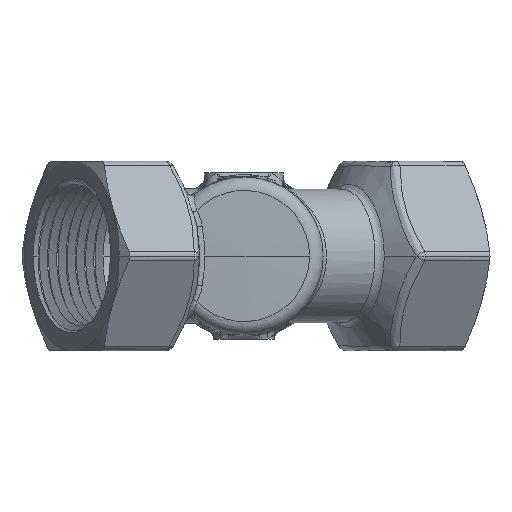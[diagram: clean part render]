
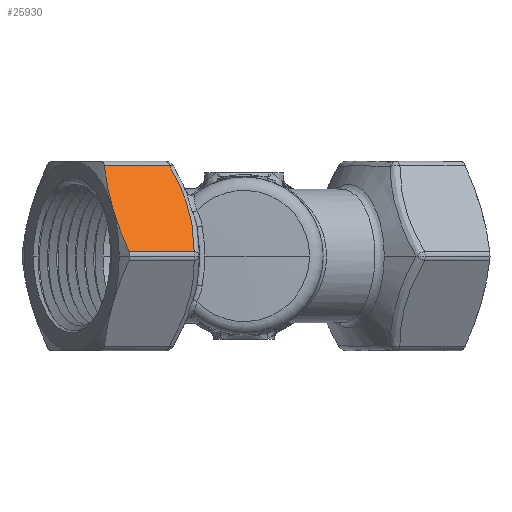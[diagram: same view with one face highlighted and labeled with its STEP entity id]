
A CAD part, front view. The second image highlights one B-rep face of the part: STEP entity #25930.
In plain terms, the highlighted planar face has unit normal (0.433, -0.75, 0.5).
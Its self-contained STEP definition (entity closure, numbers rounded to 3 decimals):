
#343 = CARTESIAN_POINT ( 'NONE',  ( -14.087, -59.12, 8.661 ) ) ;
#488 = CARTESIAN_POINT ( 'NONE',  ( -14.991, -57.549, 11.801 ) ) ;
#635 = CARTESIAN_POINT ( 'NONE',  ( -15.896, -56.507, 14.147 ) ) ;
#659 = CARTESIAN_POINT ( 'NONE',  ( -28.072, -71.274, 2.542 ) ) ;
#2552 = CARTESIAN_POINT ( 'NONE',  ( -13.351, -61.786, 4.025 ) ) ;
#2554 = CARTESIAN_POINT ( 'NONE',  ( -10.006, -61.871, 1. ) ) ;
#2876 = VERTEX_POINT ( 'NONE', #26787 ) ;
#4904 = CARTESIAN_POINT ( 'NONE',  ( -13.271, -63.757, 1. ) ) ;
#5838 = EDGE_LOOP ( 'NONE', ( #10290, #16008, #13945, #20140, #27453 ) ) ;
#6107 = CARTESIAN_POINT ( 'NONE',  ( -30.862, -67.746, 10.25 ) ) ;
#6448 = EDGE_CURVE ( 'NONE', #2876, #7851, #15780, .T. ) ;
#7836 = CARTESIAN_POINT ( 'NONE',  ( -31.678, -66.162, 13.333 ) ) ;
#7851 = VERTEX_POINT ( 'NONE', #13734 ) ;
#8082 = FACE_OUTER_BOUND ( 'NONE', #5838, .T. ) ;
#9302 = CARTESIAN_POINT ( 'NONE',  ( -30.417, -68.517, 8.708 ) ) ;
#9331 = B_SPLINE_CURVE_WITH_KNOTS ( 'NONE', 3,
 ( #4904, #14130, #2552, #22668, #23098, #343, #11489, #13837, #488, #20451, #635, #9428, #13982, #20745 ),
 .UNSPECIFIED., .F., .F.,
 ( 4, 2, 2, 2, 2, 2, 4 ),
 ( 0., 0.005, 0.008, 0.011, 0.013, 0.016, 0.022 ),
 .UNSPECIFIED. ) ;
#9428 = CARTESIAN_POINT ( 'NONE',  ( -16.94, -55.564, 16.467 ) ) ;
#10038 = CARTESIAN_POINT ( 'NONE',  ( -31.307, -66.975, 11.792 ) ) ;
#10290 = ORIENTED_EDGE ( 'NONE', *, *, #14646, .F. ) ;
#10417 = CARTESIAN_POINT ( 'NONE',  ( -13.271, -63.757, 1. ) ) ;
#11489 = CARTESIAN_POINT ( 'NONE',  ( -14.279, -58.707, 9.447 ) ) ;
#12090 = CARTESIAN_POINT ( 'NONE',  ( -30.862, -67.746, 10.25 ) ) ;
#12347 = CARTESIAN_POINT ( 'NONE',  ( -16.253, -51.05, 22.642 ) ) ;
#13734 = CARTESIAN_POINT ( 'NONE',  ( -32.708, -62.645, 19.5 ) ) ;
#13837 = CARTESIAN_POINT ( 'NONE',  ( -14.732, -57.922, 11.018 ) ) ;
#13945 = ORIENTED_EDGE ( 'NONE', *, *, #17671, .T. ) ;
#13982 = CARTESIAN_POINT ( 'NONE',  ( -17.741, -55.01, 17.991 ) ) ;
#14130 = CARTESIAN_POINT ( 'NONE',  ( -13.271, -62.753, 2.506 ) ) ;
#14142 = VERTEX_POINT ( 'NONE', #10417 ) ;
#14269 = B_SPLINE_CURVE_WITH_KNOTS ( 'NONE', 3,
 ( #12090, #10038, #7836, #23265, #14301, #27679 ),
 .UNSPECIFIED., .F., .F.,
 ( 4, 2, 4 ),
 ( 0.011, 0.016, 0.021 ),
 .UNSPECIFIED. ) ;
#14301 = CARTESIAN_POINT ( 'NONE',  ( -32.522, -63.566, 17.958 ) ) ;
#14646 = EDGE_CURVE ( 'NONE', #15459, #25130, #16699, .T. ) ;
#15459 = VERTEX_POINT ( 'NONE', #27842 ) ;
#15780 = LINE ( 'NONE', #20050, #19585 ) ;
#15781 = AXIS2_PLACEMENT_3D ( 'NONE', #12347, #21594, #17031 ) ;
#16008 = ORIENTED_EDGE ( 'NONE', *, *, #16402, .T. ) ;
#16067 = DIRECTION ( 'NONE',  ( -0.866, -0.5, 0. ) ) ;
#16402 = EDGE_CURVE ( 'NONE', #15459, #14142, #27663, .T. ) ;
#16699 = B_SPLINE_CURVE_WITH_KNOTS ( 'NONE', 3,
 ( #22976, #659, #27532, #20473, #9302, #18259 ),
 .UNSPECIFIED., .F., .F.,
 ( 4, 2, 4 ),
 ( 0., 0.005, 0.011 ),
 .UNSPECIFIED. ) ;
#17031 = DIRECTION ( 'NONE',  ( 0., 0.555, 0.832 ) ) ;
#17311 = PLANE ( 'NONE',  #15781 ) ;
#17671 = EDGE_CURVE ( 'NONE', #14142, #2876, #9331, .T. ) ;
#18259 = CARTESIAN_POINT ( 'NONE',  ( -30.862, -67.746, 10.25 ) ) ;
#19585 = VECTOR ( 'NONE', #16067, 1000. ) ;
#20050 = CARTESIAN_POINT ( 'NONE',  ( -15.346, -52.621, 19.5 ) ) ;
#20140 = ORIENTED_EDGE ( 'NONE', *, *, #6448, .T. ) ;
#20451 = CARTESIAN_POINT ( 'NONE',  ( -15.573, -56.841, 13.367 ) ) ;
#20473 = CARTESIAN_POINT ( 'NONE',  ( -29.898, -69.245, 7.167 ) ) ;
#20745 = CARTESIAN_POINT ( 'NONE',  ( -18.612, -54.507, 19.5 ) ) ;
#21594 = DIRECTION ( 'NONE',  ( -0.433, 0.75, -0.5 ) ) ;
#22668 = CARTESIAN_POINT ( 'NONE',  ( -13.643, -60.417, 6.331 ) ) ;
#22754 = EDGE_CURVE ( 'NONE', #25130, #7851, #14269, .T. ) ;
#22812 = DIRECTION ( 'NONE',  ( 0.866, 0.5, 0. ) ) ;
#22976 = CARTESIAN_POINT ( 'NONE',  ( -27.368, -71.895, 1. ) ) ;
#23098 = CARTESIAN_POINT ( 'NONE',  ( -13.769, -59.974, 7.104 ) ) ;
#23265 = CARTESIAN_POINT ( 'NONE',  ( -32.285, -64.457, 16.417 ) ) ;
#25130 = VERTEX_POINT ( 'NONE', #6107 ) ;
#25440 = VECTOR ( 'NONE', #22812, 1000. ) ;
#25930 = ADVANCED_FACE ( 'NONE', ( #8082 ), #17311, .F. ) ;
#26787 = CARTESIAN_POINT ( 'NONE',  ( -18.612, -54.507, 19.5 ) ) ;
#27453 = ORIENTED_EDGE ( 'NONE', *, *, #22754, .F. ) ;
#27532 = CARTESIAN_POINT ( 'NONE',  ( -28.725, -70.623, 4.083 ) ) ;
#27663 = LINE ( 'NONE', #2554, #25440 ) ;
#27679 = CARTESIAN_POINT ( 'NONE',  ( -32.708, -62.645, 19.5 ) ) ;
#27842 = CARTESIAN_POINT ( 'NONE',  ( -27.368, -71.895, 1. ) ) ;
